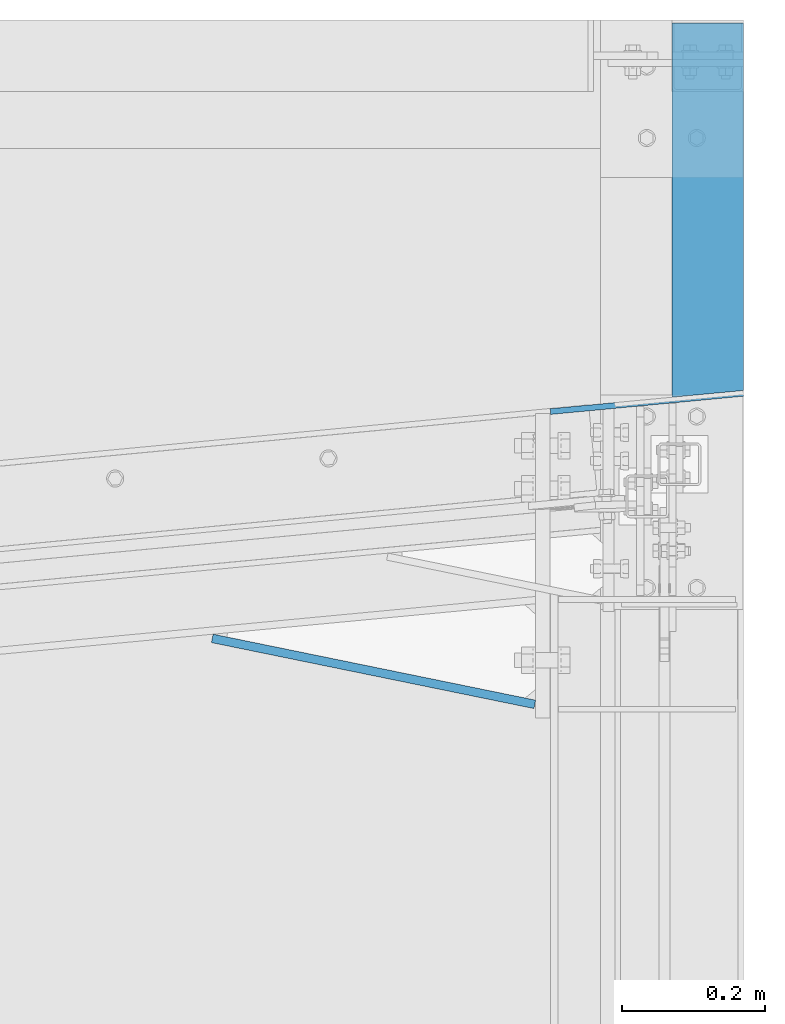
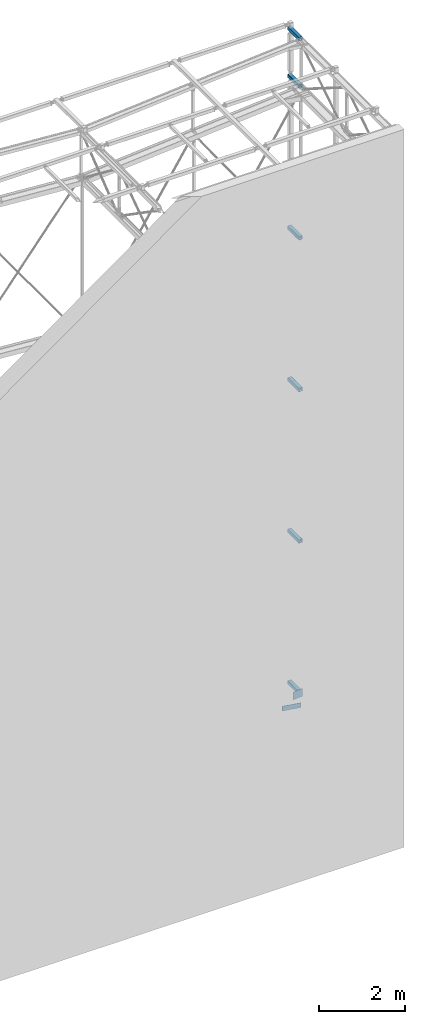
# One storey, part 91 of 271: 8 beams, 7 elements without a shape of their own.
"""IFC2X3 building model written with IfcOpenShell, lengths in millimetres."""

from ifc_helpers import new_model, si_unit, frame, origin_with_axes, origin_2d_with_axis, place, context, subcontext, project, spatial, rectangle, hollow_rectangle, extrude, boolean, halfspace, material, type_object, element, aggregate, save


model = new_model("IFC2X3")

# Units and contexts
model_context = context("Model", 3, precision=1e-05, world=origin_with_axes())
body_context = subcontext(model_context, "Body", "Model", "MODEL_VIEW")
ifc_project = project(units=[si_unit("LENGTHUNIT", "METRE", prefix="MILLI"), si_unit("AREAUNIT", "SQUARE_METRE"), si_unit("VOLUMEUNIT", "CUBIC_METRE"), si_unit("MASSUNIT", "GRAM", prefix="KILO"), si_unit("TIMEUNIT", "SECOND"), si_unit("PLANEANGLEUNIT", "RADIAN"), si_unit("SOLIDANGLEUNIT", "STERADIAN"), si_unit("THERMODYNAMICTEMPERATUREUNIT", "DEGREE_CELSIUS"), si_unit("LUMINOUSINTENSITYUNIT", "LUMEN")], contexts=[model_context])

# Site, building, storey
site_placement = place(None, origin_with_axes())
site = spatial("IfcSite", under=ifc_project, at=site_placement, Name="Undefined", CompositionType="ELEMENT")
building_placement = place(site_placement, origin_with_axes())
building = spatial("IfcBuilding", under=site, at=building_placement, Name="Undefined", CompositionType="ELEMENT")
storey_placement = place(building_placement, origin_with_axes())
storey = spatial("IfcBuildingStorey", under=building, at=storey_placement, Name="Undefined", CompositionType="ELEMENT", Elevation=0.0)

# Assembly, beam
assembly_1_placement = place(storey_placement, origin_with_axes())
assembly_1 = element("IfcElementAssembly", 1, at=assembly_1_placement, inside=storey, AssemblyPlace="NOTDEFINED", PredefinedType="RIGID_FRAME")
ifc_material = material(Name="STEEL/S355JR")
beam_type_1 = type_object("IfcBeamType", Name="SHS100*3", PredefinedType="NOTDEFINED")
beam_1_placement = place(assembly_1_placement, frame((12658.3756870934, 4959.32498425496, 1364.34999990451), z_axis=(1.0, 0.0, 0.0), x_axis=(0.0, -1.0, 0.0)))
beam_1 = element("IfcBeam", 2, at=beam_1_placement, type_object=beam_type_1, material=ifc_material, Name="SŁUPEK", ObjectType="SHS100*3", context=body_context, shape_type="CSG", body=[
    boolean("DIFFERENCE", boolean("DIFFERENCE", extrude(hollow_rectangle(XDim=100.0, YDim=100.0, WallThickness=3.0, InnerFilletRadius=3.0, OuterFilletRadius=6.0, at=origin_2d_with_axis()), frame((544.272864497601, 0.0, 0.0), z_axis=(-1.0, 0.0, 1.38777878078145e-17), x_axis=(0.0, -1.0, 0.0)), (0.0, 0.0, 1.0), 544.27), extrude(rectangle(XDim=80.0, YDim=335.0, at=origin_2d_with_axis()), frame((584.166929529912, 3.63797880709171e-12, -216.99447696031), z_axis=(-0.0939225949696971, 0.0, 0.995579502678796), x_axis=(-0.995579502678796, 0.0, -0.0939225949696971)), (0.0, 0.0, 1.0), 300.0)), halfspace(frame((4.0, 0.0, -50.0), z_axis=(1.0, 0.0, 0.0), x_axis=(0.0, -1.0, 0.0)), True)),
])

assembly_2_placement = place(storey_placement, origin_with_axes())
assembly_2 = element("IfcElementAssembly", 3, at=assembly_2_placement, inside=storey, AssemblyPlace="NOTDEFINED", PredefinedType="RIGID_FRAME")
beam_2_placement = place(assembly_2_placement, frame((12658.3756870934, 4959.32498425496, 5684.34999990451), z_axis=(1.0, 0.0, 0.0), x_axis=(0.0, -1.0, 0.0)))
beam_2 = element("IfcBeam", 4, at=beam_2_placement, type_object=beam_type_1, material=ifc_material, Name="SŁUPEK", ObjectType="SHS100*3", context=body_context, shape_type="CSG", body=[
    boolean("DIFFERENCE", boolean("DIFFERENCE", extrude(hollow_rectangle(XDim=100.0, YDim=100.0, WallThickness=3.0, InnerFilletRadius=3.0, OuterFilletRadius=6.0, at=origin_2d_with_axis()), frame((544.272864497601, 0.0, 0.0), z_axis=(-1.0, 0.0, 1.38777878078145e-17), x_axis=(0.0, -1.0, 0.0)), (0.0, 0.0, 1.0), 544.27), extrude(rectangle(XDim=80.0, YDim=335.0, at=origin_2d_with_axis()), frame((584.166929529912, 3.63797880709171e-12, -216.99447696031), z_axis=(-0.0939225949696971, 0.0, 0.995579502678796), x_axis=(-0.995579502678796, 0.0, -0.0939225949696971)), (0.0, 0.0, 1.0), 300.0)), halfspace(frame((4.0, 0.0, -50.0), z_axis=(1.0, 0.0, 0.0), x_axis=(0.0, -1.0, 0.0)), True)),
])
aggregate(assembly_2, [beam_2])

assembly_3_placement = place(storey_placement, origin_with_axes())
assembly_3 = element("IfcElementAssembly", 5, at=assembly_3_placement, inside=storey, AssemblyPlace="NOTDEFINED", PredefinedType="RIGID_FRAME")
beam_3_placement = place(assembly_3_placement, frame((12658.3756870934, 4959.32498425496, 10004.3499999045), z_axis=(1.0, 0.0, 0.0), x_axis=(0.0, -1.0, 0.0)))
beam_3 = element("IfcBeam", 6, at=beam_3_placement, type_object=beam_type_1, material=ifc_material, Name="SŁUPEK", ObjectType="SHS100*3", context=body_context, shape_type="CSG", body=[
    boolean("DIFFERENCE", boolean("DIFFERENCE", extrude(hollow_rectangle(XDim=100.0, YDim=100.0, WallThickness=3.0, InnerFilletRadius=3.0, OuterFilletRadius=6.0, at=origin_2d_with_axis()), frame((544.272864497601, 0.0, 0.0), z_axis=(-1.0, 0.0, 1.38777878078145e-17), x_axis=(0.0, -1.0, 0.0)), (0.0, 0.0, 1.0), 544.27), extrude(rectangle(XDim=80.0, YDim=335.0, at=origin_2d_with_axis()), frame((584.166929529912, 3.63797880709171e-12, -216.99447696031), z_axis=(-0.0939225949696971, 0.0, 0.995579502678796), x_axis=(-0.995579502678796, 0.0, -0.0939225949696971)), (0.0, 0.0, 1.0), 300.0)), halfspace(frame((4.0, 0.0, -50.0), z_axis=(1.0, 0.0, 0.0), x_axis=(0.0, -1.0, 0.0)), True)),
])
aggregate(assembly_3, [beam_3])

assembly_4_placement = place(storey_placement, origin_with_axes())
assembly_4 = element("IfcElementAssembly", 7, at=assembly_4_placement, inside=storey, AssemblyPlace="NOTDEFINED", PredefinedType="RIGID_FRAME")
beam_4_placement = place(assembly_4_placement, frame((12658.3756870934, 4959.32498425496, 14324.3499999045), z_axis=(1.0, 0.0, 0.0), x_axis=(0.0, -1.0, 0.0)))
beam_4 = element("IfcBeam", 8, at=beam_4_placement, type_object=beam_type_1, material=ifc_material, Name="SŁUPEK", ObjectType="SHS100*3", context=body_context, shape_type="CSG", body=[
    boolean("DIFFERENCE", boolean("DIFFERENCE", extrude(hollow_rectangle(XDim=100.0, YDim=100.0, WallThickness=3.0, InnerFilletRadius=3.0, OuterFilletRadius=6.0, at=origin_2d_with_axis()), frame((544.272864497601, 0.0, 0.0), z_axis=(-1.0, 0.0, 1.38777878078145e-17), x_axis=(0.0, -1.0, 0.0)), (0.0, 0.0, 1.0), 544.27), extrude(rectangle(XDim=80.0, YDim=335.0, at=origin_2d_with_axis()), frame((584.166929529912, 3.63797880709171e-12, -216.99447696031), z_axis=(-0.0939225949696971, 0.0, 0.995579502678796), x_axis=(-0.995579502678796, 0.0, -0.0939225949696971)), (0.0, 0.0, 1.0), 300.0)), halfspace(frame((4.0, 0.0, -50.0), z_axis=(1.0, 0.0, 0.0), x_axis=(0.0, -1.0, 0.0)), True)),
])
aggregate(assembly_4, [beam_4])

assembly_5_placement = place(storey_placement, origin_with_axes())
assembly_5 = element("IfcElementAssembly", 9, at=assembly_5_placement, inside=storey, AssemblyPlace="NOTDEFINED", PredefinedType="RIGID_FRAME")
beam_5_placement = place(assembly_5_placement, frame((12658.3756870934, 4959.32498425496, 20004.3499999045), z_axis=(1.0, 0.0, 0.0), x_axis=(0.0, -1.0, 0.0)))
beam_5 = element("IfcBeam", 10, at=beam_5_placement, type_object=beam_type_1, material=ifc_material, Name="SŁUPEK", ObjectType="SHS100*3", context=body_context, shape_type="CSG", body=[
    boolean("DIFFERENCE", boolean("DIFFERENCE", extrude(hollow_rectangle(XDim=100.0, YDim=100.0, WallThickness=3.0, InnerFilletRadius=3.0, OuterFilletRadius=6.0, at=origin_2d_with_axis()), frame((535.782298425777, 0.0, 0.0), z_axis=(-1.0, 0.0, 1.38777878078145e-17), x_axis=(0.0, -1.0, 0.0)), (0.0, 0.0, 1.0), 535.78), extrude(rectangle(XDim=80.0, YDim=335.0, at=origin_2d_with_axis()), frame((584.149208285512, -2.49999999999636, -216.806631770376), z_axis=(-0.0939225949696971, 0.0, 0.995579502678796), x_axis=(-0.995579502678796, 0.0, -0.0939225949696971)), (0.0, 0.0, 1.0), 300.0)), halfspace(frame((4.0, 0.0, -50.0), z_axis=(1.0, 0.0, 0.0), x_axis=(0.0, -1.0, 0.0)), True)),
])
aggregate(assembly_5, [beam_5])

assembly_6_placement = place(storey_placement, origin_with_axes())
assembly_6 = element("IfcElementAssembly", 11, at=assembly_6_placement, inside=storey, AssemblyPlace="NOTDEFINED", PredefinedType="RIGID_FRAME")
beam_6_placement = place(assembly_6_placement, frame((12658.3756870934, 4959.32498425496, 18644.3499999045), z_axis=(1.0, 0.0, 0.0), x_axis=(0.0, -1.0, 0.0)))
beam_6 = element("IfcBeam", 12, at=beam_6_placement, type_object=beam_type_1, material=ifc_material, Name="SŁUPEK", ObjectType="SHS100*3", context=body_context, shape_type="CSG", body=[
    boolean("DIFFERENCE", boolean("DIFFERENCE", extrude(hollow_rectangle(XDim=100.0, YDim=100.0, WallThickness=3.0, InnerFilletRadius=3.0, OuterFilletRadius=6.0, at=origin_2d_with_axis()), frame((544.272864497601, 0.0, 0.0), z_axis=(-1.0, 0.0, 1.38777878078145e-17), x_axis=(0.0, -1.0, 0.0)), (0.0, 0.0, 1.0), 544.27), extrude(rectangle(XDim=80.0, YDim=335.0, at=origin_2d_with_axis()), frame((584.166929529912, 3.63797880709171e-12, -216.99447696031), z_axis=(-0.0939225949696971, 0.0, 0.995579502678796), x_axis=(-0.995579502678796, 0.0, -0.0939225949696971)), (0.0, 0.0, 1.0), 300.0)), halfspace(frame((4.0, 0.0, -50.0), z_axis=(1.0, 0.0, 0.0), x_axis=(0.0, -1.0, 0.0)), True)),
])
aggregate(assembly_6, [beam_6])

assembly_7_placement = place(storey_placement, origin_with_axes())
assembly_7 = element("IfcElementAssembly", 13, at=assembly_7_placement, inside=storey, AssemblyPlace="NOTDEFINED", PredefinedType="RIGID_FRAME")
beam_type_2 = type_object("IfcBeamType", Name="BL12*135", PredefinedType="NOTDEFINED")
beam_7_placement = place(assembly_7_placement, frame((12416.1731905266, 4000.99388873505, 1364.34999990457), z_axis=(0.0, 0.0, -1.0), x_axis=(-0.979710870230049, 0.200416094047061, 0.0)))
beam_7 = element("IfcBeam", 14, at=beam_7_placement, type_object=beam_type_2, material=ifc_material, Name="BLACHA", ObjectType="BL12*135", context=body_context, shape_type="SweptSolid", body=[
    extrude(rectangle(XDim=12.0, YDim=135.0, at=origin_2d_with_axis()), frame((460.999999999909, 0.0, 9.09494701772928e-13), z_axis=(-1.0, 0.0, 1.38777878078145e-17), x_axis=(0.0, -1.0, 0.0)), (0.0, 0.0, 1.0), 461.0),
])
aggregate(assembly_7, [beam_7])

# Beam
beam_type_3 = type_object("IfcBeamType", Name="BL8*220", PredefinedType="NOTDEFINED")
beam_8_placement = place(assembly_1_placement, frame((12707.9999967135, 4436.47061498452, 1364.34999990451), z_axis=(0.0, 0.0, -1.0), x_axis=(-0.995579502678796, -0.0939225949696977, 0.0)))
beam_8 = element("IfcBeam", 15, at=beam_8_placement, type_object=beam_type_3, material=ifc_material, Name="BLACHA", ObjectType="BL8*220", context=body_context, shape_type="SweptSolid", body=[
    extrude(rectangle(XDim=8.0, YDim=220.0, at=origin_2d_with_axis()), frame((271.198833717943, 0.0, 9.09494701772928e-13), z_axis=(-1.0, 0.0, 1.38777878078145e-17), x_axis=(0.0, -1.0, 0.0)), (0.0, 0.0, 1.0), 271.2),
])

aggregate(assembly_1, [beam_8, beam_1])

save(model, "model.ifc")
